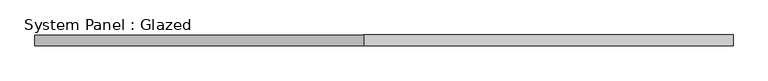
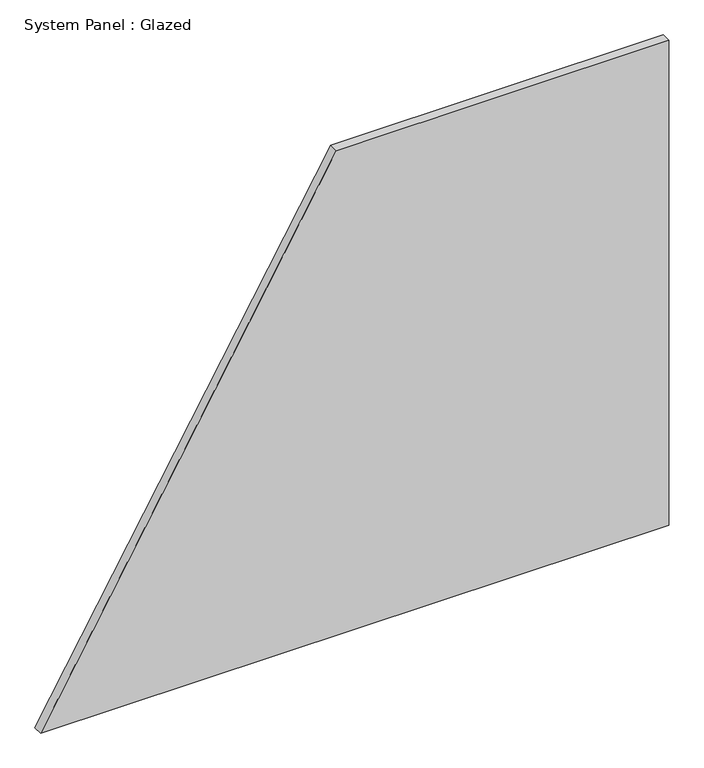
"""IFC4 building model written with IfcOpenShell, lengths in millimetres: plate geometry, System Panel : Glazed."""

from ifc_helpers import new_model, si_unit, frame, origin, place, context, project, spatial, polyline, outline, extrude, source, transform, mapped, element, save


def system_panel_glazed_98c912bf(model_context):
    return source(origin(), model_context, "Body", "SweptSolid", [
        extrude(outline(polyline([(0.0, -821.7657014), (0.0, 821.7657014), (1340.1963401, 821.7657014), (1340.1963401, -48.0029837), (0.0, -821.7657014)])), frame((0.0, 19.05, 0.0), z_axis=(0.0, 1.0, 0.0), x_axis=(0.0, 0.0, 1.0)), (0.0, 0.0, 1.0), 25.4),
    ])


if __name__ == "__main__":
    model = new_model("IFC4")
    model_context = context("Model", 3, world=origin())
    ifc_project = project(units=[si_unit("LENGTHUNIT", "METRE", prefix="MILLI")], contexts=[model_context])
    site = spatial("IfcSite", under=ifc_project)
    building = spatial("IfcBuilding", under=site)
    placement = place(None, origin())
    system_panel_glazed_shape = system_panel_glazed_98c912bf(model_context)
    element("IfcPlate", 1, ObjectType="System Panel : Glazed", at=placement, inside=building, context=model_context, shape_type="MappedRepresentation", body=[
        mapped(system_panel_glazed_shape, transform((0.0, 0.0, 0.0), x_axis=(1.0, 0.0, 0.0), y_axis=(0.0, 1.0, 0.0), z_axis=(0.0, 0.0, 1.0))),
    ])
    save(model, "model.ifc")
